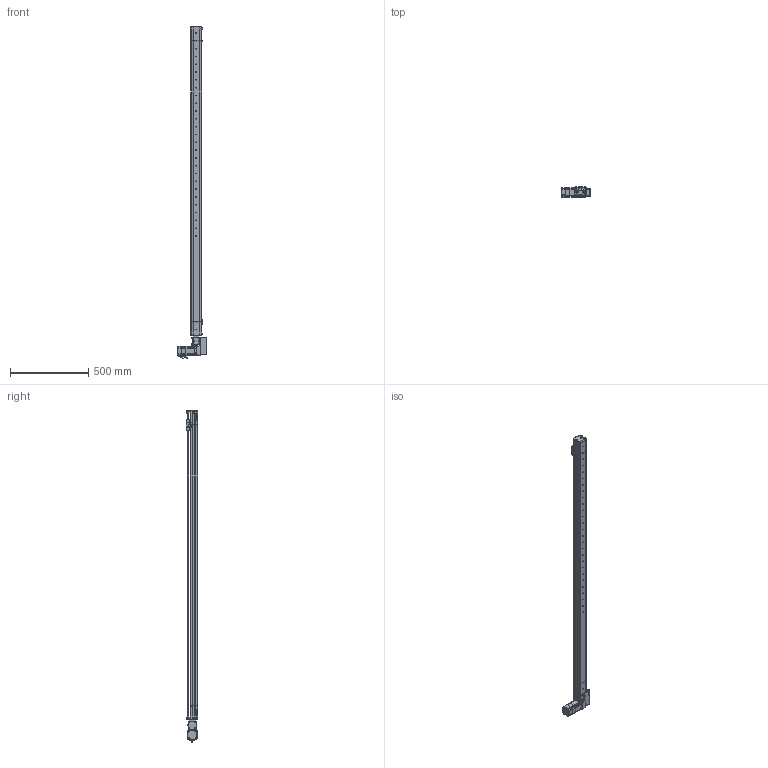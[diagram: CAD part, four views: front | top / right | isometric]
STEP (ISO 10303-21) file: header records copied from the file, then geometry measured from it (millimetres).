
FILE_DESCRIPTION (( 'STEP AP214' ), '1' );
FILE_NAME ('S07 TBN LH S1800.STEP', '2010-06-29T12:22:14', ( 'Conseil Régional Haute-Normandie' ), ( 'Conseil Régional Haute-Normandie' ), 'SwSTEP 2.0', 'SolidWorks 2010', '' );
FILE_SCHEMA (( 'AUTOMOTIVE_DESIGN' ));
Length unit declared in the file: millimetre
Products named in the file (41): couvercle tail TB; plaque de bout_Default; corp tail TB_Default; S07 TB tail (78)_Default; Conecteur2 60BLDC_Default; Conecteur 60BLDC_Default; Axe 60BLDC_Default; Vis M5 L16-2_Default; Cvis M5 L30_Default; VisM3_Default; P4_Default; P3 90A_Default; P2 90A_Default; P1_Default; GMB 60 90 310_Default; Poulie_Default; vis M5 L16_Default; Chariot; guide; CHariot_Default; couroie tail_Default; vis M5 L12_Default; T皻e de poulie_Default; S07 TBN LH S1800; couvercle S07 course 1800 ; Couroie  course 1800_Default; Corp S07 course 1800_Default; Course C L1800_Default; plaque de bout LH_Default; corp moteur LH-RH(146)_Default; S07 LH(146)_Default; Poulie head_Default; cache t皻e axe_Default; couvercle moteur S07 TB; Pièce5^S07 LH(146); vis M5 L5_Default; cache t皻e_Default; renvoi LH_Default; Plaque racord_Default; Couroie t皻e_Default
Assembly tree (80 placements, depth 4):
  S07 TBN LH S1800
    Course C L1800_Default
      Couroie  course 1800_Default
      couvercle S07 course 1800 
      Corp S07 course 1800_Default
    CHariot_Default
      vis M5 L16_Default  x2
      guide
      Chariot
    S07 TB tail (78)_Default
      couvercle tail TB
      vis M5 L12_Default  x10
      Poulie_Default
        Poulie_Default
        T皻e de poulie_Default
      plaque de bout_Default
      couroie tail_Default
      corp tail TB_Default
    S07 LH(146)_Default
      Vis M5 L16-2_Default  x8
      plaque de bout LH_Default
      Cvis M5 L30_Default  x2
      vis M5 L5_Default  x6
      vis M5 L12_Default  x6
      cache t皻e axe_Default
      GMB 60 90 310_Default
        P2 90A_Default
        Axe 60BLDC_Default
        VisM3_Default  x12
        P4_Default
        Conecteur2 60BLDC_Default
        Conecteur 60BLDC_Default
        P3 90A_Default
        P1_Default
      Couroie t皻e_Default
      cache t皻e_Default  x2
      corp moteur LH-RH(146)_Default
      renvoi LH_Default
      Poulie head_Default
      Plaque racord_Default
      couvercle moteur S07 TB
  Pièce5^S07 LH(146)
Bounding box: 190.2 x 72.2 x 2127 mm (x, y, z)
Volume: 3897619.5 mm3; surface area: 1720631.8 mm2
Topology: 102 solids, 102 shells, 3954 faces, 9834 edges, 6353 vertices
Faces by surface type: plane 2241, cylinder 783, bspline 677, cone 125, torus 124, sphere 4
Entity records: 168061 total; most frequent: CARTESIAN_POINT 75345, ORIENTED_EDGE 15580, DIRECTION 12461, EDGE_CURVE 7790, VERTEX_POINT 5141, VECTOR 5067, LINE 5067, AXIS2_PLACEMENT_3D 3697
